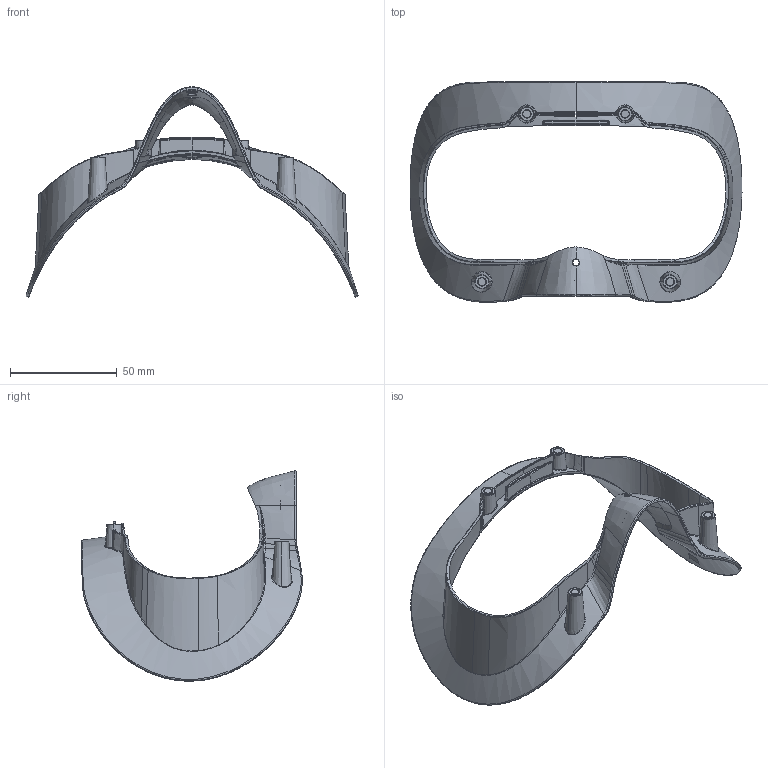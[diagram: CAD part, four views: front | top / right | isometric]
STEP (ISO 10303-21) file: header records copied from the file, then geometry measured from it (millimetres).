
FILE_DESCRIPTION((''),'2;1');
FILE_NAME('INDEX_HMD_FACE_GASKET_ASM','2019-05-01T',('carlc'),(''),'CREO PARAMETRIC BY PTC INC, 2016380','CREO PARAMETRIC BY PTC INC, 2016380','');
FILE_SCHEMA(('CONFIG_CONTROL_DESIGN'));
Products named in the file (3): MAGNET_N52; FRAME_GASKET_FACE; INDEX_HMD_FACE_GASKET_ASM
Assembly tree (5 placements, depth 2):
  INDEX_HMD_FACE_GASKET_ASM
    MAGNET_N52  x4
    FRAME_GASKET_FACE
Bounding box: 155.31 x 103.14 x 98.37 mm (x, y, z)
Volume: 24382.8 mm3; surface area: 36257.4 mm2
Topology: 5 solids, 5 shells, 854 faces, 2122 edges, 1273 vertices
Faces by surface type: bspline 534, plane 88, cone 80, cylinder 74, torus 64, extrusion 14
Entity records: 115565 total; most frequent: CARTESIAN_POINT 95141, ORIENTED_EDGE 3990, PRESENTATION_STYLE_ASSIGNMENT 1997, STYLED_ITEM 1997, CURVE_STYLE 1995, EDGE_CURVE 1995, B_SPLINE_CURVE_WITH_KNOTS 1544, DIRECTION 1221
